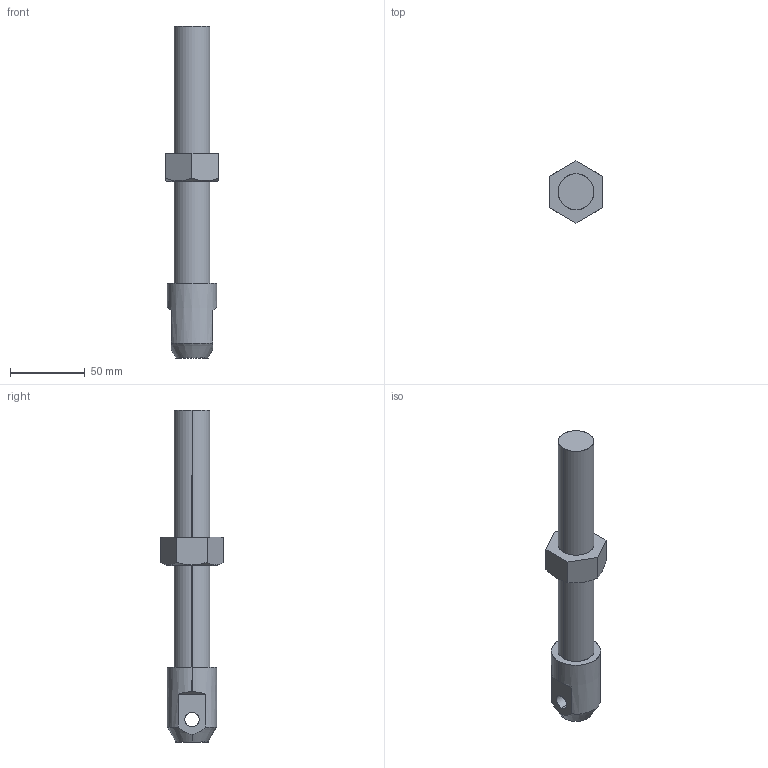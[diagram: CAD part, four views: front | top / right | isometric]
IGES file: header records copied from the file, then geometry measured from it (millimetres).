
Start section: SolidWorks IGES file using analytic representation for surfaces
Global section: file name: X:\11_SW2020-Inv2020\00_全2021-11新製品まで\c\CBS2-100\cbs2-100.IGS; native system: SolidWorks 2020; preprocessor: SolidWorks 2020; author: ImaoCorp; date: 211026.084709; units: millimetre
Bounding box: 36 x 41.57 x 222 mm (x, y, z)
Surface area: 25006.5 mm2 (no closed solid volume)
Topology: 0 solids, 0 shells, 27 faces, 606 edges, 606 vertices
Faces by surface type: bspline 15, revolution 12
